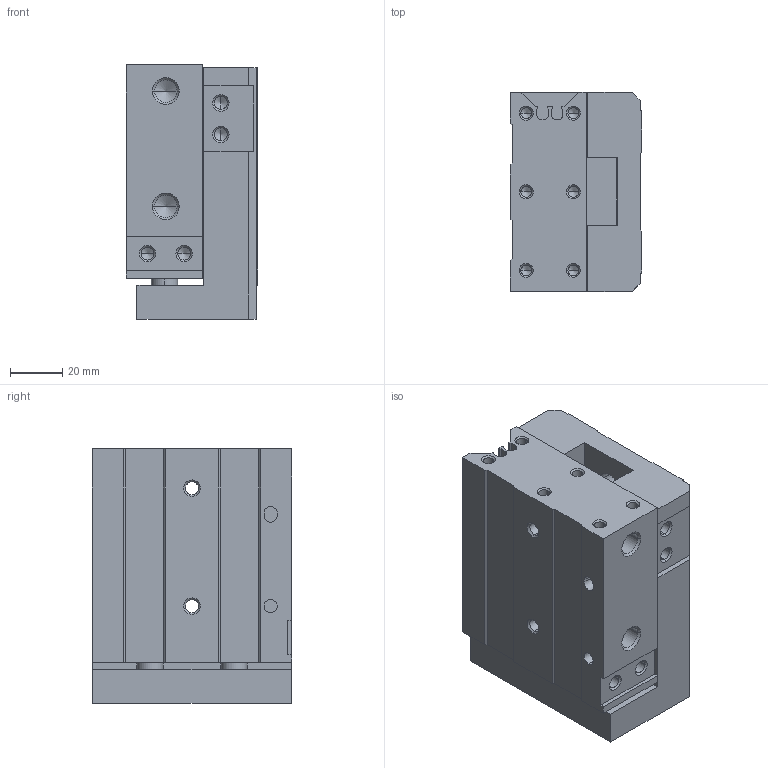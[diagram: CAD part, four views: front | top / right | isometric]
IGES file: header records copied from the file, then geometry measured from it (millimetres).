
Global section: file name: No Iges File Name specified; native system: Autodesk Inventor 2011; preprocessor: AutoDesk Inventor Iges Exporter R2011; author: airolcr1; date: 20110310.120119; units: millimetre
Bounding box: 50 x 76 x 97 mm (x, y, z)
Volume: 316881 mm3; surface area: 62036 mm2
Topology: 2 solids, 2 shells, 221 faces, 554 edges, 326 vertices
Faces by surface type: bspline 127, plane 78, revolution 12, cylinder 4
